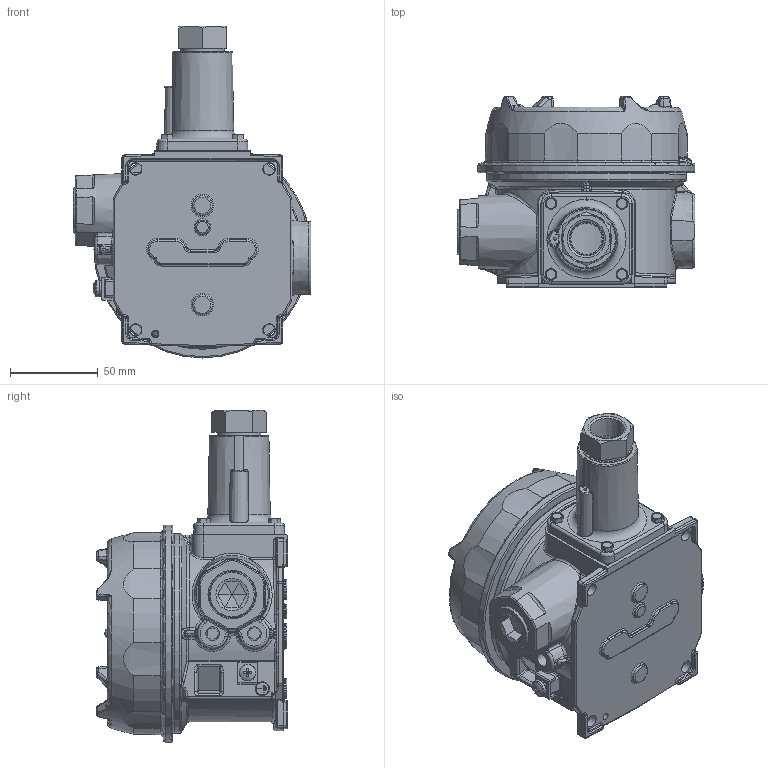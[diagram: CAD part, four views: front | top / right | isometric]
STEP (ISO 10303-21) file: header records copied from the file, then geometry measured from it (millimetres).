
FILE_DESCRIPTION (( 'STEP AP214' ), '1' );
FILE_NAME ('J120-188_189_488_489_V4.STEP', '2025-03-13T19:01:06', ( '' ), ( '' ), 'SwSTEP 2.0', 'SolidWorks 2023', '' );
FILE_SCHEMA (( 'AUTOMOTIVE_DESIGN' ));
Length unit declared in the file: inch
Products named in the file (1): J120-188_189_488_489_V4
Bounding box: 135.89 x 109.35 x 189.71 mm (x, y, z)
Surface area: 92201.7 mm2 (no closed solid volume)
Topology: 0 solids, 19 shells, 990 faces, 2523 edges, 1483 vertices
Faces by surface type: bspline 243, plane 222, cylinder 204, torus 158, cone 131, sphere 32
Full cylindrical faces by diameter (mm): 1.575 x1, 3.22 x1, 5.556 x4, 7.366 x1, 7.874 x1, 9.5 x1, 17.856 x1, 23.812 x1, 24.892 x1, 26.987 x1, 87.312 x1, 114.046 x1, 123.952 x1
Entity records: 40173 total; most frequent: CARTESIAN_POINT 19244, ORIENTED_EDGE 4430, DIRECTION 4033, EDGE_CURVE 2388, AXIS2_PLACEMENT_3D 1695, VERTEX_POINT 1456, EDGE_LOOP 1116, FACE_OUTER_BOUND 1029
